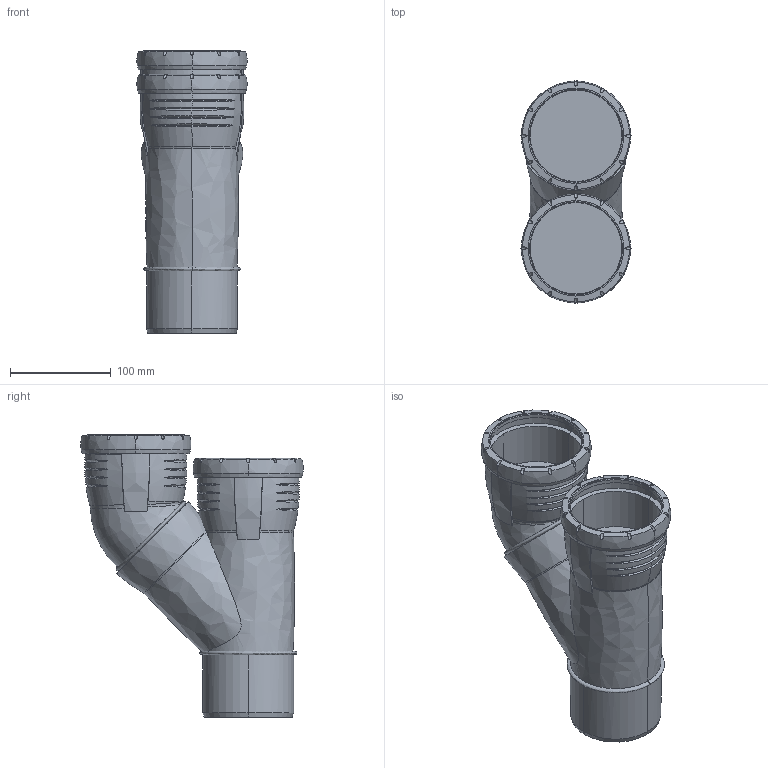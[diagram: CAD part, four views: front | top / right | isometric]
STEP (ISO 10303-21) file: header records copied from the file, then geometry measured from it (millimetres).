
FILE_DESCRIPTION(/* description */ (''),/* implementation_level */ '2;1');
FILE_NAME(/* name */ 'H:\Geberit-Teile\Export\Silent\stp\393457.stp',/* time_stamp */ '2017-03-30T11:41:34+02:00',/* author */ ('seihe2'),/* organization */ (''),/* preprocessor_version */ 'ST-DEVELOPER v15.2',/* originating_system */ 'Autodesk Inventor 2014',/* authorisation */ '');
FILE_SCHEMA (('AUTOMOTIVE_DESIGN { 1 0 10303 214 3 1 1 }'));
Length unit declared in the file: millimetre
Products named in the file (1): 393457
Bounding box: 109.41 x 221.11 x 280.55 mm (x, y, z)
Volume: 2050392.2 mm3; surface area: 210905.5 mm2
Topology: 1 solids, 1 shells, 249 faces, 678 edges, 431 vertices
Faces by surface type: bspline 112, cone 92, cylinder 27, plane 11, torus 7
Entity records: 13656 total; most frequent: CARTESIAN_POINT 8076, ORIENTED_EDGE 1348, DIRECTION 826, EDGE_CURVE 674, VERTEX_POINT 431, AXIS2_PLACEMENT_3D 377, B_SPLINE_CURVE_WITH_KNOTS 357, EDGE_LOOP 253
